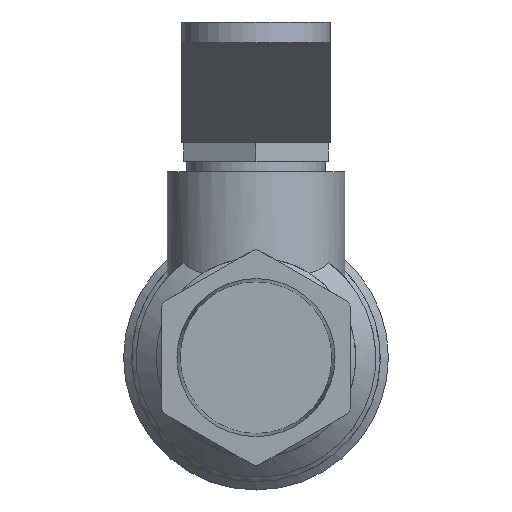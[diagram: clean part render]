
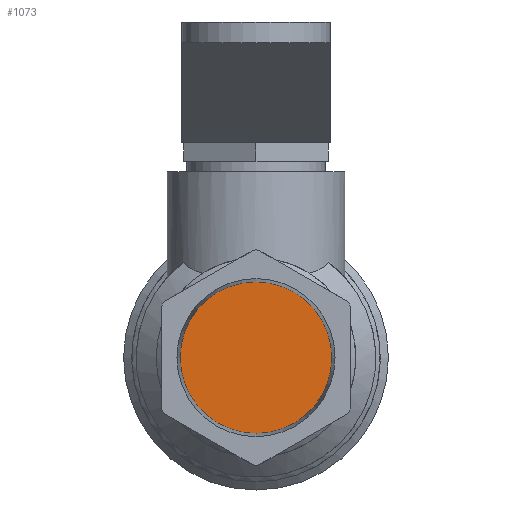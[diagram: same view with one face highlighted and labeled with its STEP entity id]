
A CAD part, left-side view. The second image highlights one B-rep face of the part: STEP entity #1073.
In plain terms, the highlighted free-form (B-spline) face has degree [1, 1] with [2, 2] control points.
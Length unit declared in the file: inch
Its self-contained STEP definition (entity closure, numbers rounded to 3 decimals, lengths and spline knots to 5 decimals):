
#1057=CARTESIAN_POINT('',(0.4067,0.3008,0.3008));
#1058=CARTESIAN_POINT('',(0.4067,-0.3008,0.3008));
#1059=CARTESIAN_POINT('',(0.4067,0.3008,-0.3008));
#1060=CARTESIAN_POINT('',(0.4067,-0.3008,-0.3008));
#1061=B_SPLINE_SURFACE_WITH_KNOTS('',1,1,((#1057,#1059),(#1058,#1060)),.UNSPECIFIED.,.F.,.F.,.U.,(2,2),(2,2),(0.0,0.6016),(0.0,0.6016),.UNSPECIFIED.);
#1062=CARTESIAN_POINT('',(0.4067,0.3008,0.0));
#1063=VERTEX_POINT('',#1062);
#1064=CARTESIAN_POINT('',(0.4067,0.0,0.0));
#1065=DIRECTION('',(1.0,0.0,0.0));
#1066=DIRECTION('',(0.0,1.0,0.0));
#1067=AXIS2_PLACEMENT_3D('',#1064,#1065,#1066);
#1068=CIRCLE('',#1067,0.3008);
#1069=EDGE_CURVE('',#1063,#1063,#1068,.T.);
#1070=ORIENTED_EDGE('',*,*,#1069,.F.);
#1071=EDGE_LOOP('',(#1070));
#1072=FACE_OUTER_BOUND('',#1071,.T.);
#1073=ADVANCED_FACE('',(#1072),#1061,.F.);
